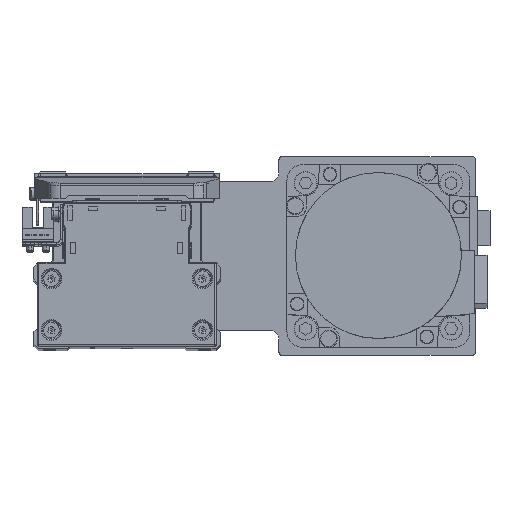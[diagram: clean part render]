
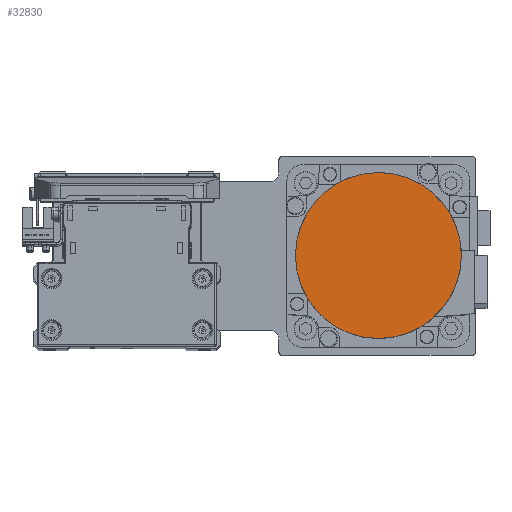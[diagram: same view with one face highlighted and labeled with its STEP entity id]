
A CAD part, top view. The second image highlights one B-rep face of the part: STEP entity #32830.
In plain terms, the highlighted planar face has unit normal (0, 0, 1) as drawn and (0, 0, -1) by its records, which use the part's own axes.
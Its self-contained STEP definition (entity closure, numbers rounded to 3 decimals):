
#1959 = VERTEX_POINT ( 'NONE', #12521 ) ;
#2411 = DIRECTION ( 'NONE',  ( 0., -1., 0. ) ) ;
#3736 = AXIS2_PLACEMENT_3D ( 'NONE', #7037, #19168, #31310 ) ;
#4930 = CIRCLE ( 'NONE', #27139, 36.3 ) ;
#6975 = EDGE_CURVE ( 'NONE', #1959, #29938, #4930, .T. ) ;
#7037 = CARTESIAN_POINT ( 'NONE',  ( 0., 0., -122.2 ) ) ;
#7312 = DIRECTION ( 'NONE',  ( 1., 0., 0. ) ) ;
#9973 = EDGE_LOOP ( 'NONE', ( #13456, #27641 ) ) ;
#10308 = PLANE ( 'NONE',  #22539 ) ;
#12521 = CARTESIAN_POINT ( 'NONE',  ( 0., -36.3, -122.2 ) ) ;
#13456 = ORIENTED_EDGE ( 'NONE', *, *, #16272, .F. ) ;
#16272 = EDGE_CURVE ( 'NONE', #29938, #1959, #20874, .T. ) ;
#17523 = CARTESIAN_POINT ( 'NONE',  ( 0., 0., -122.2 ) ) ;
#19168 = DIRECTION ( 'NONE',  ( 0., 0., 1. ) ) ;
#20874 = CIRCLE ( 'NONE', #3736, 36.3 ) ;
#22430 = CARTESIAN_POINT ( 'NONE',  ( 0., 0., -122.2 ) ) ;
#22539 = AXIS2_PLACEMENT_3D ( 'NONE', #22430, #34580, #7312 ) ;
#27139 = AXIS2_PLACEMENT_3D ( 'NONE', #17523, #29663, #2411 ) ;
#27641 = ORIENTED_EDGE ( 'NONE', *, *, #6975, .F. ) ;
#29663 = DIRECTION ( 'NONE',  ( 0., 0., 1. ) ) ;
#29938 = VERTEX_POINT ( 'NONE', #32985 ) ;
#31310 = DIRECTION ( 'NONE',  ( 0., 1., 0. ) ) ;
#32830 = ADVANCED_FACE ( 'NONE', ( #37576 ), #10308, .F. ) ;
#32985 = CARTESIAN_POINT ( 'NONE',  ( 0., 36.3, -122.2 ) ) ;
#34580 = DIRECTION ( 'NONE',  ( 0., 0., 1. ) ) ;
#37576 = FACE_OUTER_BOUND ( 'NONE', #9973, .T. ) ;
